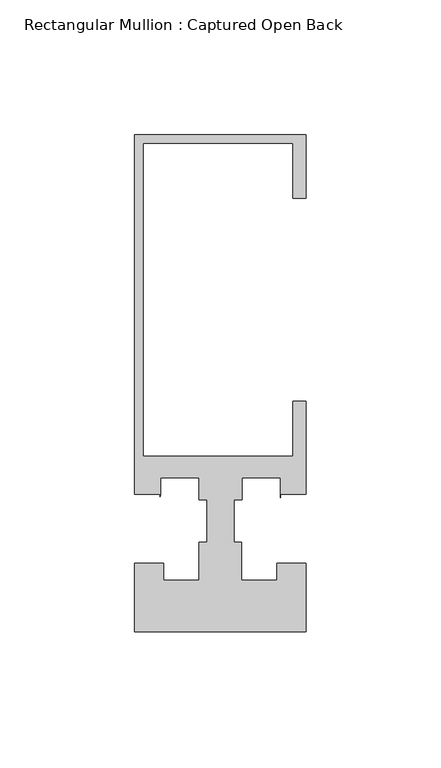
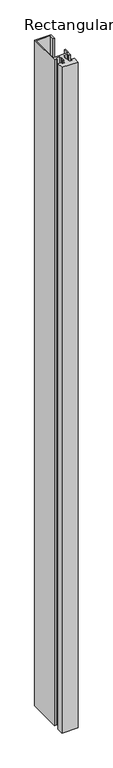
"""IFC4 building model written with IfcOpenShell, lengths in millimetres: member geometry, Rectangular Mullion : Captured Open Back."""

from ifc_helpers import new_model, si_unit, frame, origin, place, context, project, spatial, polyline, outline, extrude, source, transform, mapped, element, save


def rectangular_mullion_captured_open_back_bbfb2c0f(model_context):
    return source(origin(), model_context, "Body", "SweptSolid", [
        extrude(outline(polyline([(0.0, 114.3), (0.0, 90.8721193), (-4.7830665, 90.8721193), (-4.7830665, 111.1250145), (-60.3449493, 111.1250145), (-60.3449493, -4.7625735), (-4.7830665, -4.7625735), (-4.7830665, 15.5833982), (0.0, 15.5833982), (0.0, -18.933673), (-9.3791839, -18.933673), (-9.3791839, -20.0839351), (-9.5454538, -18.933673), (-9.5454538, -12.7), (-23.7289004, -12.7), (-23.7289004, -20.8793999), (-26.7817813, -20.8793999), (-26.7817813, -36.6491027), (-23.833119, -36.6491027), (-23.833119, -50.8001709), (-10.6860183, -50.8001709), (-10.6860183, -44.4245655), (0.0, -44.4245655), (0.0, -69.8502416), (-63.5, -69.8502416), (-63.5, -44.4247364), (-52.7976545, -44.4247364), (-52.7976545, -50.8001709), (-39.7081202, -50.8001709), (-39.7081202, -36.6491027), (-36.7345137, -36.6491027), (-36.7345137, -20.8793999), (-39.7081204, -20.8793999), (-39.7081204, -12.7), (-53.9955753, -12.7), (-53.9955753, -18.948961), (-54.1818814, -19.8905485), (-54.1818814, -18.9488461), (-63.5205663, -18.9488461), (-63.5205663, 114.3), (0.0, 114.3)])), frame((0.0, 0.0, -2743.2), z_axis=(0.0, 0.0, 1.0), x_axis=(1.0, 0.0, 0.0)), (0.0, 0.0, 1.0), 2743.2),
    ])


if __name__ == "__main__":
    model = new_model("IFC4")
    model_context = context("Model", 3, world=origin())
    ifc_project = project(units=[si_unit("LENGTHUNIT", "METRE", prefix="MILLI")], contexts=[model_context])
    site = spatial("IfcSite", under=ifc_project)
    building = spatial("IfcBuilding", under=site)
    placement = place(None, origin())
    rectangular_mullion_captured_open_back_shape = rectangular_mullion_captured_open_back_bbfb2c0f(model_context)
    element("IfcMember", 1, ObjectType="Rectangular Mullion : Captured Open Back", at=placement, inside=building, context=model_context, shape_type="MappedRepresentation", body=[
        mapped(rectangular_mullion_captured_open_back_shape, transform((0.0, 0.0, 0.0), x_axis=(1.0, 0.0, 0.0), y_axis=(0.0, 1.0, 0.0), z_axis=(0.0, 0.0, 1.0))),
    ])
    save(model, "model.ifc")
